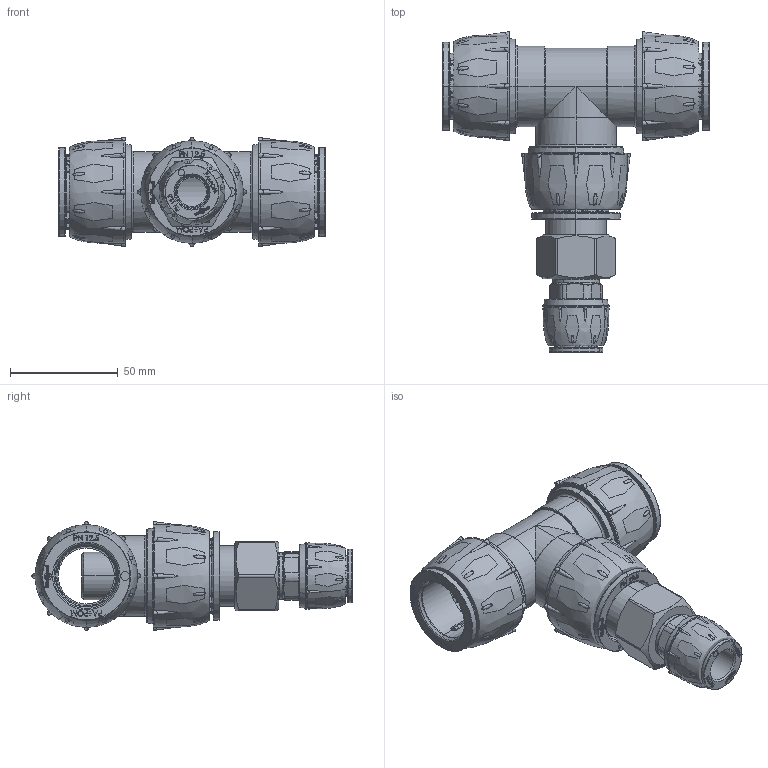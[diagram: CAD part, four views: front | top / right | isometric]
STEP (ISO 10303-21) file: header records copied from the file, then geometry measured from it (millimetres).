
FILE_DESCRIPTION (( 'STEP AP214' ), '1' );
FILE_NAME ('R247.028.015.STEP', '2019-10-24T15:00:45', ( '' ), ( '' ), 'SwSTEP 2.0', 'SolidWorks 2018', '' );
FILE_SCHEMA (( 'AUTOMOTIVE_DESIGN' ));
Length unit declared in the file: millimetre
Products named in the file (16): R237.028.012; R209.015.001; R247.028.015; R209.028.003; R209.015.002; R214.028.000-L; R211.015.012-L; R211.015.012; R2016.028.000; R209.028.001; OR_14.5x3; R209.015.003; OR_27.4x2.7; R216.015.000; R214.028.000; R209.028.002
Assembly tree (25 placements, depth 3):
  R247.028.015
    R214.028.000
      R214.028.000-L
      OR_27.4x2.7  x3
      R209.028.001  x3
      R209.028.002  x3
      R209.028.003  x3
      R2016.028.000  x3
    R237.028.012
    R211.015.012
      R211.015.012-L
      OR_14.5x3
      R209.015.001
      R209.015.002
      R216.015.000
      R209.015.003
Bounding box: 123.7 x 148.6 x 50.61 mm (x, y, z)
Volume: 158116.8 mm3; surface area: 116491.3 mm2
Topology: 23 solids, 47 shells, 3698 faces, 10075 edges, 6553 vertices
Faces by surface type: bspline 1480, plane 959, cylinder 607, torus 347, cone 273, sphere 32
Entity records: 123393 total; most frequent: CARTESIAN_POINT 78814, ORIENTED_EDGE 10922, DIRECTION 6558, EDGE_CURVE 5461, VERTEX_POINT 3619, B_SPLINE_CURVE_WITH_KNOTS 2623, AXIS2_PLACEMENT_3D 2505, EDGE_LOOP 2136
